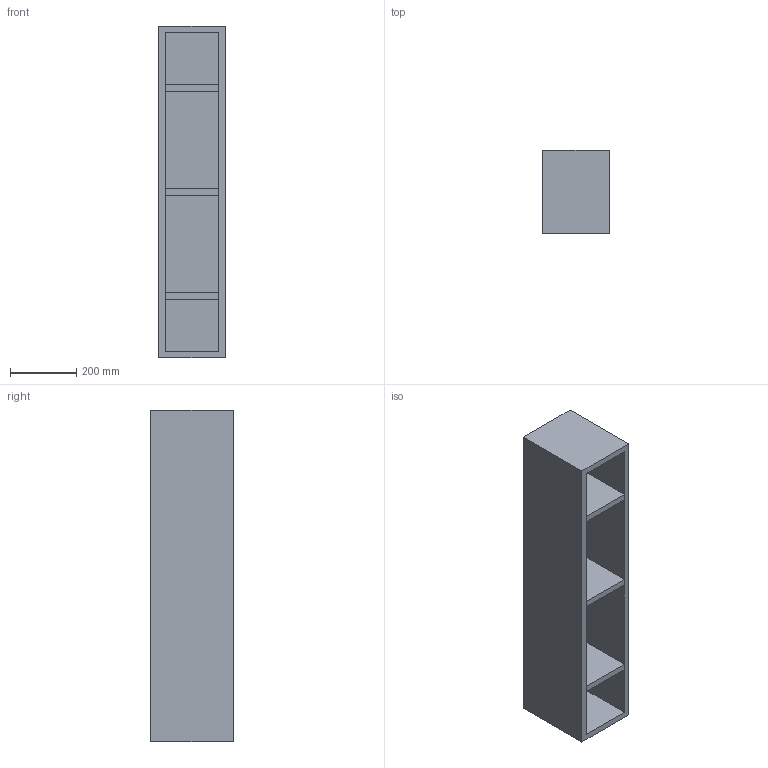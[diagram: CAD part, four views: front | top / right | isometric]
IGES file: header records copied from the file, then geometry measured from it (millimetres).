
Global section: file name: \\Archi-NAS\Comune\X GIOVANNI\MOBILI\BOISERIE + NICHE + COVERWALL\COVERWALL 200.igs; native system: Rhinoceros ( Jan 17 2018 ); preprocessor: Trout Lake IGES 012 Jan 17 2018; date: 230608.093517; units: millimetre
Bounding box: 200 x 250 x 1000 mm (x, y, z)
Surface area: 1874046 mm2 (no closed solid volume)
Topology: 0 solids, 0 shells, 34 faces, 144 edges, 144 vertices
Faces by surface type: bspline 34
